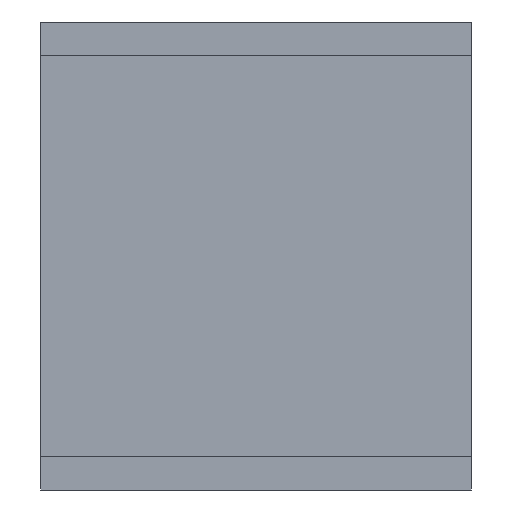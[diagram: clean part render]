
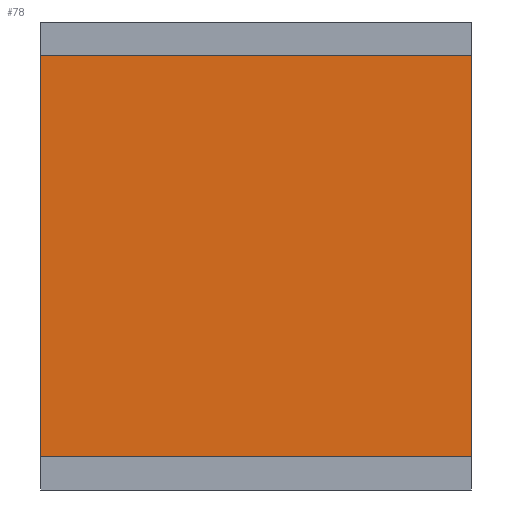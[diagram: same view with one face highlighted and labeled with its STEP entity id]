
A CAD part, front view. The second image highlights one B-rep face of the part: STEP entity #78.
In plain terms, the highlighted planar face has unit normal (0, -1, 0).
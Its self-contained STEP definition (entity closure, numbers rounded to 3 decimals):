
#5 = LINE ( 'NONE', #111, #345 ) ;
#17 = EDGE_CURVE ( 'NONE', #105, #646, #55, .T. ) ;
#20 = DIRECTION ( 'NONE',  ( 0., 0., -1. ) ) ;
#27 = VECTOR ( 'NONE', #20, 1000. ) ;
#55 = LINE ( 'NONE', #671, #381 ) ;
#58 = DIRECTION ( 'NONE',  ( 0., 0., 1. ) ) ;
#59 = ORIENTED_EDGE ( 'NONE', *, *, #684, .F. ) ;
#68 = LINE ( 'NONE', #540, #27 ) ;
#78 = ADVANCED_FACE ( 'NONE', ( #357 ), #522, .F. ) ;
#96 = EDGE_CURVE ( 'NONE', #244, #331, #5, .T. ) ;
#105 = VERTEX_POINT ( 'NONE', #294 ) ;
#111 = CARTESIAN_POINT ( 'NONE',  ( 15., 14., 14. ) ) ;
#116 = ORIENTED_EDGE ( 'NONE', *, *, #17, .F. ) ;
#244 = VERTEX_POINT ( 'NONE', #317 ) ;
#294 = CARTESIAN_POINT ( 'NONE',  ( 15., 14., -14. ) ) ;
#295 = ORIENTED_EDGE ( 'NONE', *, *, #677, .T. ) ;
#317 = CARTESIAN_POINT ( 'NONE',  ( 15., 14., 14. ) ) ;
#331 = VERTEX_POINT ( 'NONE', #613 ) ;
#345 = VECTOR ( 'NONE', #527, 1000. ) ;
#347 = ORIENTED_EDGE ( 'NONE', *, *, #96, .T. ) ;
#357 = FACE_OUTER_BOUND ( 'NONE', #420, .T. ) ;
#381 = VECTOR ( 'NONE', #666, 1000. ) ;
#419 = VECTOR ( 'NONE', #705, 1000. ) ;
#420 = EDGE_LOOP ( 'NONE', ( #295, #116, #59, #347 ) ) ;
#433 = CARTESIAN_POINT ( 'NONE',  ( -15., 14., -14. ) ) ;
#470 = DIRECTION ( 'NONE',  ( 0., 1., 0. ) ) ;
#484 = LINE ( 'NONE', #524, #419 ) ;
#486 = AXIS2_PLACEMENT_3D ( 'NONE', #573, #470, #58 ) ;
#522 = PLANE ( 'NONE',  #486 ) ;
#524 = CARTESIAN_POINT ( 'NONE',  ( 15., 14., 16.3 ) ) ;
#527 = DIRECTION ( 'NONE',  ( -1., 0., 0. ) ) ;
#540 = CARTESIAN_POINT ( 'NONE',  ( -15., 14., 16.3 ) ) ;
#573 = CARTESIAN_POINT ( 'NONE',  ( 15., 14., 16.3 ) ) ;
#613 = CARTESIAN_POINT ( 'NONE',  ( -15., 14., 14. ) ) ;
#646 = VERTEX_POINT ( 'NONE', #433 ) ;
#666 = DIRECTION ( 'NONE',  ( -1., 0., 0. ) ) ;
#671 = CARTESIAN_POINT ( 'NONE',  ( 15., 14., -14. ) ) ;
#677 = EDGE_CURVE ( 'NONE', #331, #646, #68, .T. ) ;
#684 = EDGE_CURVE ( 'NONE', #244, #105, #484, .T. ) ;
#705 = DIRECTION ( 'NONE',  ( 0., 0., -1. ) ) ;
